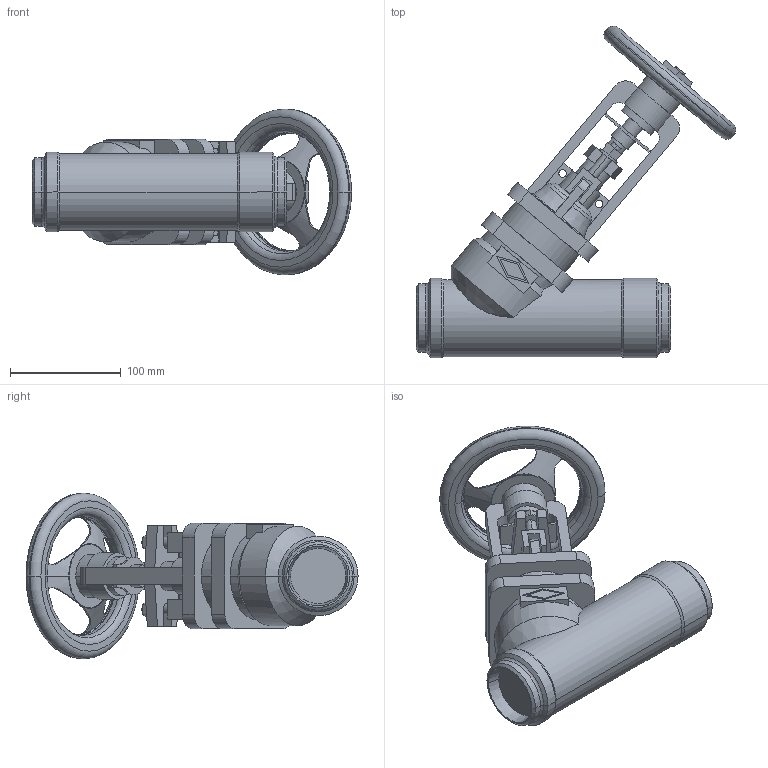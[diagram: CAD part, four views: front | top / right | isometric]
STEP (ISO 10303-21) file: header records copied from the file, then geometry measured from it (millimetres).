
FILE_DESCRIPTION(('OneSpaceDesigner STEP Export'),'2;1');
FILE_NAME('c000004351.stp','2010-05-10T10:57:05',(''),(''),'OneSpace Designer STEP processor for AP214 (Solid Model)','OneSpace Modeling 15.50B 03-Nov-2007 (C) CoCreate Software GmbH','');
FILE_SCHEMA(('AUTOMOTIVE_DESIGN { 1 0 10303 214 1 1 1 1 }'));
Length unit declared in the file: millimetre
Products named in the file (1): 1
Bounding box: 288.65 x 300.18 x 150 mm (x, y, z)
Volume: 1768041 mm3; surface area: 187698.2 mm2
Topology: 1 solids, 1 shells, 294 faces, 778 edges, 504 vertices
Faces by surface type: plane 136, cylinder 91, torus 36, cone 31
Entity records: 11650 total; most frequent: CARTESIAN_POINT 2377, ORIENTED_EDGE 1548, DIRECTION 1277, EDGE_CURVE 774, VERTEX_POINT 500, AXIS2_PLACEMENT_3D 438, VECTOR 401, LINE 401
